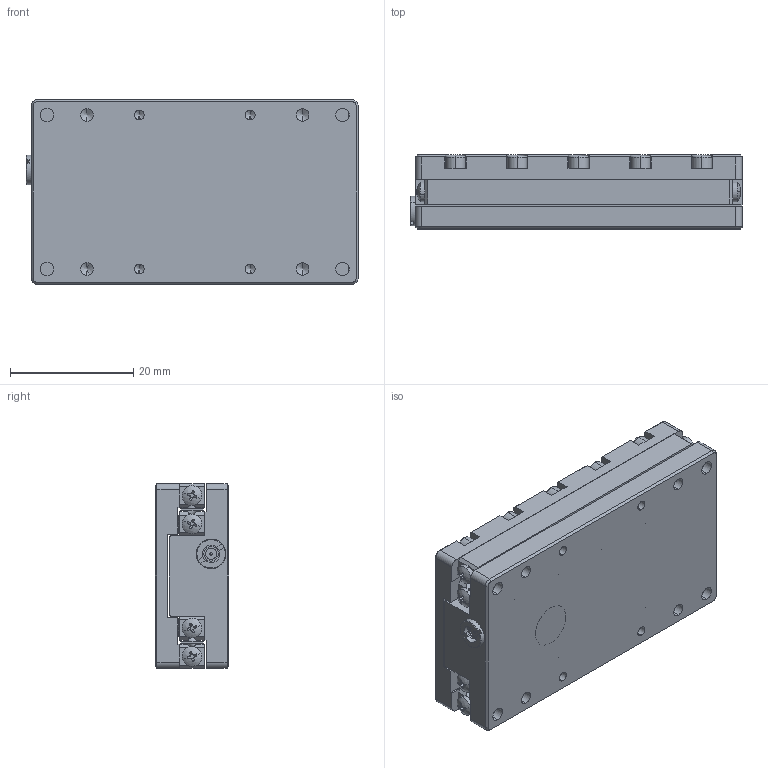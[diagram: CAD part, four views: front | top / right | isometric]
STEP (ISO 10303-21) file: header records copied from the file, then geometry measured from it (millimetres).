
FILE_DESCRIPTION (( 'STEP AP214' ), '1' );
FILE_NAME ('N56.30K-B1直线压电马达(简化版）.STEP', '2023-04-13T00:30:18', ( 'Sky123.Org' ), ( 'Sky123.Org' ), 'SwSTEP 2.0', 'SolidWorks 2016', '' );
FILE_SCHEMA (( 'AUTOMOTIVE_DESIGN' ));
Length unit declared in the file: millimetre
Products named in the file (1): N56.30K-B1直线压电马达(简化版）
Bounding box: 53.9 x 12 x 30 mm (x, y, z)
Volume: 13503.3 mm3; surface area: 16551.8 mm2
Topology: 65 solids, 65 shells, 1454 faces, 3541 edges, 2244 vertices
Faces by surface type: plane 742, cylinder 528, cone 126, torus 42, sphere 16
Entity records: 59139 total; most frequent: DIRECTION 7629, CARTESIAN_POINT 7540, ORIENTED_EDGE 6898, EDGE_CURVE 3449, AXIS2_PLACEMENT_3D 2829, VERTEX_POINT 2244, LINE 1971, VECTOR 1971
